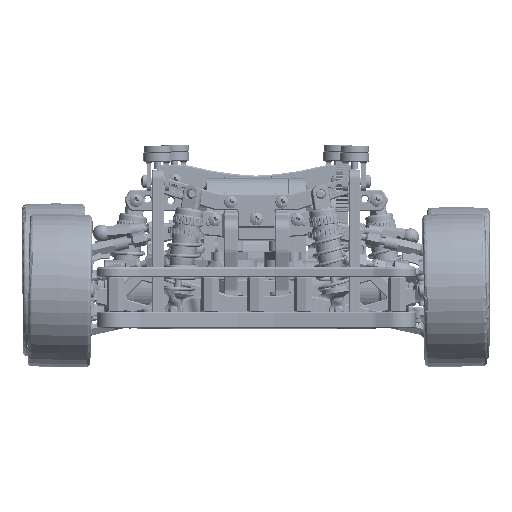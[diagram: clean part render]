
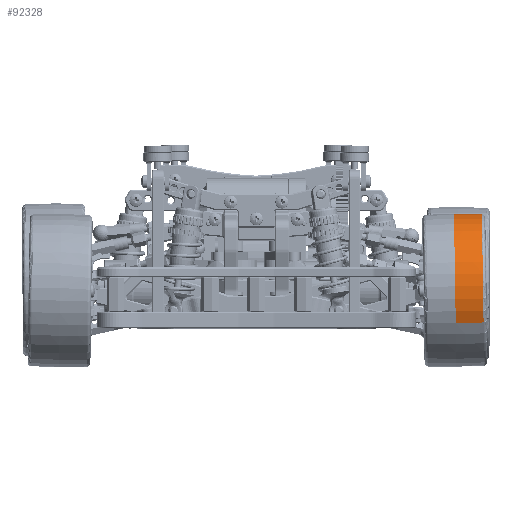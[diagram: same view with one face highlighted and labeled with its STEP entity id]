
A CAD part, top view. The second image highlights one B-rep face of the part: STEP entity #92328.
In plain terms, the highlighted free-form (B-spline) face has degree [3, 3] with [4, 4] control points.
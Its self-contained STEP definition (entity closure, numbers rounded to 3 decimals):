
#7076 = CARTESIAN_POINT ( 'NONE',  ( 78.686, 238.596, 44.849 ) ) ;
#7639 = CARTESIAN_POINT ( 'NONE',  ( 88.701, 287.706, 4.101 ) ) ;
#17417 = FACE_OUTER_BOUND ( 'NONE', #80750, .T. ) ;
#20690 = VERTEX_POINT ( 'NONE', #7076 ) ;
#35217 = CARTESIAN_POINT ( 'NONE',  ( 78.686, 238.596, 44.849 ) ) ;
#64063 = CARTESIAN_POINT ( 'NONE',  ( 90.638, 239.219, 44.59 ) ) ;
#70960 = AXIS2_PLACEMENT_3D ( 'NONE', #398927, #361930, #240375 ) ;
#79218 = CARTESIAN_POINT ( 'NONE',  ( 85.403, 273.41, 69.651 ) ) ;
#79579 = CARTESIAN_POINT ( 'NONE',  ( 84.711, 287.727, 4.027 ) ) ;
#80750 = EDGE_LOOP ( 'NONE', ( #319997, #127106, #130900, #263330 ) ) ;
#92328 = ADVANCED_FACE ( 'NONE', ( #17417 ), #93503, .F. ) ;
#92907 = CARTESIAN_POINT ( 'NONE',  ( 82.674, 238.748, 44.84 ) ) ;
#93503 =( BOUNDED_SURFACE ( )  B_SPLINE_SURFACE ( 3, 3, ( 
 ( #136988, #388279, #326485, #200838 ),
 ( #268778, #79218, #233828, #301666 ),
 ( #202856, #171936, #176019, #169920 ),
 ( #330497, #208949, #264677, #173986 ) ),
 .UNSPECIFIED., .F., .F., .T. ) 
 B_SPLINE_SURFACE_WITH_KNOTS ( ( 4, 4 ),
 ( 4, 4 ),
 ( 380.727, 392.7 ),
 ( 0., 1. ),
 .UNSPECIFIED. ) 
 GEOMETRIC_REPRESENTATION_ITEM ( )  RATIONAL_B_SPLINE_SURFACE ( (
 ( 1., 0.498, 0.498, 1.),
 ( 1., 0.498, 0.498, 1.),
 ( 1., 0.498, 0.498, 1.),
 ( 1., 0.498, 0.498, 1.) ) ) 
 REPRESENTATION_ITEM ( '' )  SURFACE ( )  );
#95006 = CARTESIAN_POINT ( 'NONE',  ( 77.893, 257.841, 18.177 ) ) ;
#123837 = CARTESIAN_POINT ( 'NONE',  ( 86.659, 238.956, 44.754 ) ) ;
#127106 = ORIENTED_EDGE ( 'NONE', *, *, #373528, .F. ) ;
#130900 = ORIENTED_EDGE ( 'NONE', *, *, #400578, .F. ) ;
#136988 = CARTESIAN_POINT ( 'NONE',  ( 90.638, 239.219, 44.59 ) ) ;
#145481 = CIRCLE ( 'NONE', #231139, 32.9 ) ;
#169402 = VERTEX_POINT ( 'NONE', #216103 ) ;
#169920 = CARTESIAN_POINT ( 'NONE',  ( 80.72, 287.661, 3.995 ) ) ;
#170282 = CARTESIAN_POINT ( 'NONE',  ( 76.732, 287.509, 4.004 ) ) ;
#171936 = CARTESIAN_POINT ( 'NONE',  ( 81.413, 273.302, 69.81 ) ) ;
#173986 = CARTESIAN_POINT ( 'NONE',  ( 76.732, 287.509, 4.004 ) ) ;
#176019 = CARTESIAN_POINT ( 'NONE',  ( 80.106, 306.024, 42.485 ) ) ;
#200838 = CARTESIAN_POINT ( 'NONE',  ( 88.701, 287.706, 4.101 ) ) ;
#202856 = CARTESIAN_POINT ( 'NONE',  ( 82.674, 238.748, 44.84 ) ) ;
#208949 = CARTESIAN_POINT ( 'NONE',  ( 77.426, 273.15, 69.819 ) ) ;
#209149 = CIRCLE ( 'NONE', #70960, 32.613 ) ;
#216103 = CARTESIAN_POINT ( 'NONE',  ( 88.701, 287.706, 4.101 ) ) ;
#231139 = AXIS2_PLACEMENT_3D ( 'NONE', #95006, #323490, #352381 ) ;
#233828 = CARTESIAN_POINT ( 'NONE',  ( 84.1, 306.036, 42.405 ) ) ;
#236186 = CARTESIAN_POINT ( 'NONE',  ( 80.72, 287.661, 3.995 ) ) ;
#240375 = DIRECTION ( 'NONE',  ( 0.03, -0.81, -0.585 ) ) ;
#263330 = ORIENTED_EDGE ( 'NONE', *, *, #380528, .T. ) ;
#264677 = CARTESIAN_POINT ( 'NONE',  ( 76.118, 305.872, 42.494 ) ) ;
#268778 = CARTESIAN_POINT ( 'NONE',  ( 86.659, 238.956, 44.754 ) ) ;
#270050 = VERTEX_POINT ( 'NONE', #299596 ) ;
#281769 = B_SPLINE_CURVE_WITH_KNOTS ( 'NONE', 3,
 ( #64063, #123837, #92907, #35217 ),
 .UNSPECIFIED., .F., .F.,
 ( 4, 4 ),
 ( 380.727, 392.7 ),
 .UNSPECIFIED. ) ;
#291976 = B_SPLINE_CURVE_WITH_KNOTS ( 'NONE', 3,
 ( #170282, #236186, #79579, #7639 ),
 .UNSPECIFIED., .F., .F.,
 ( 4, 4 ),
 ( -392.7, -380.727 ),
 .UNSPECIFIED. ) ;
#299596 = CARTESIAN_POINT ( 'NONE',  ( 90.638, 239.219, 44.59 ) ) ;
#301666 = CARTESIAN_POINT ( 'NONE',  ( 84.711, 287.727, 4.027 ) ) ;
#319997 = ORIENTED_EDGE ( 'NONE', *, *, #362782, .F. ) ;
#323490 = DIRECTION ( 'NONE',  ( 0.999, 0.038, -0.002 ) ) ;
#326485 = CARTESIAN_POINT ( 'NONE',  ( 88.093, 305.909, 42.255 ) ) ;
#330497 = CARTESIAN_POINT ( 'NONE',  ( 78.686, 238.596, 44.849 ) ) ;
#352381 = DIRECTION ( 'NONE',  ( 0.03, -0.81, -0.585 ) ) ;
#356860 = VERTEX_POINT ( 'NONE', #357077 ) ;
#357077 = CARTESIAN_POINT ( 'NONE',  ( 76.732, 287.509, 4.004 ) ) ;
#361930 = DIRECTION ( 'NONE',  ( 0.999, 0.038, -0.002 ) ) ;
#362782 = EDGE_CURVE ( 'NONE', #270050, #20690, #281769, .T. ) ;
#373528 = EDGE_CURVE ( 'NONE', #169402, #270050, #209149, .T. ) ;
#380528 = EDGE_CURVE ( 'NONE', #356860, #20690, #145481, .T. ) ;
#388279 = CARTESIAN_POINT ( 'NONE',  ( 89.389, 273.472, 69.342 ) ) ;
#398927 = CARTESIAN_POINT ( 'NONE',  ( 89.853, 258.296, 18.15 ) ) ;
#400578 = EDGE_CURVE ( 'NONE', #356860, #169402, #291976, .T. ) ;
